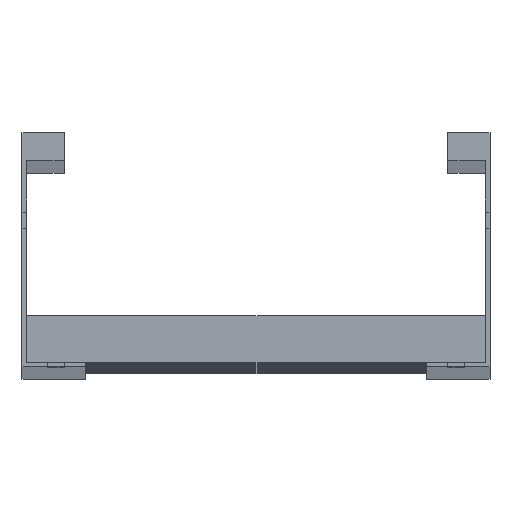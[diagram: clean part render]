
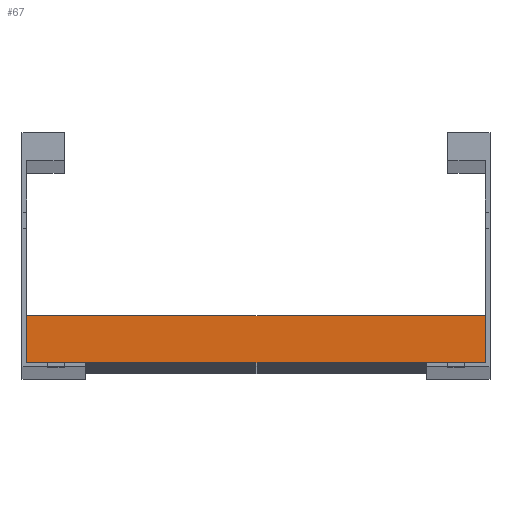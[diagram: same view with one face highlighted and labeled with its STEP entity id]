
A CAD part, top view. The second image highlights one B-rep face of the part: STEP entity #67.
In plain terms, the highlighted planar face has unit normal (0, 0, 1).
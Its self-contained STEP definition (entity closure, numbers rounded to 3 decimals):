
#46 = AXIS2_PLACEMENT_3D ( 'NONE', #1529, #1278, #1148 ) ;
#58 = VERTEX_POINT ( 'NONE', #1257 ) ;
#62 = CARTESIAN_POINT ( 'NONE',  ( -98., 20., 20.25 ) ) ;
#67 = ADVANCED_FACE ( 'NONE', ( #73 ), #615, .F. ) ;
#73 = FACE_OUTER_BOUND ( 'NONE', #1146, .T. ) ;
#79 = LINE ( 'NONE', #1652, #131 ) ;
#131 = VECTOR ( 'NONE', #195, 1000. ) ;
#188 = ORIENTED_EDGE ( 'NONE', *, *, #902, .T. ) ;
#195 = DIRECTION ( 'NONE',  ( -1., 0., 0. ) ) ;
#247 = CARTESIAN_POINT ( 'NONE',  ( 98., 0., 20.25 ) ) ;
#293 = VERTEX_POINT ( 'NONE', #247 ) ;
#437 = CARTESIAN_POINT ( 'NONE',  ( -98., 0., 20.25 ) ) ;
#486 = EDGE_CURVE ( 'NONE', #941, #1323, #1391, .T. ) ;
#498 = DIRECTION ( 'NONE',  ( 0., -1., 0. ) ) ;
#615 = PLANE ( 'NONE',  #46 ) ;
#737 = DIRECTION ( 'NONE',  ( -1., 0., 0. ) ) ;
#753 = CARTESIAN_POINT ( 'NONE',  ( 98., 20., 20.25 ) ) ;
#862 = ORIENTED_EDGE ( 'NONE', *, *, #1691, .F. ) ;
#902 = EDGE_CURVE ( 'NONE', #58, #941, #1124, .T. ) ;
#924 = ORIENTED_EDGE ( 'NONE', *, *, #486, .T. ) ;
#941 = VERTEX_POINT ( 'NONE', #1665 ) ;
#1051 = ORIENTED_EDGE ( 'NONE', *, *, #1201, .F. ) ;
#1124 = LINE ( 'NONE', #753, #1631 ) ;
#1146 = EDGE_LOOP ( 'NONE', ( #924, #862, #1051, #188 ) ) ;
#1148 = DIRECTION ( 'NONE',  ( 0., 1., 0. ) ) ;
#1168 = LINE ( 'NONE', #1199, #1430 ) ;
#1199 = CARTESIAN_POINT ( 'NONE',  ( 98., 20., 20.25 ) ) ;
#1201 = EDGE_CURVE ( 'NONE', #58, #293, #1168, .T. ) ;
#1257 = CARTESIAN_POINT ( 'NONE',  ( 98., 20., 20.25 ) ) ;
#1278 = DIRECTION ( 'NONE',  ( 0., 0., -1. ) ) ;
#1289 = VECTOR ( 'NONE', #1401, 1000. ) ;
#1323 = VERTEX_POINT ( 'NONE', #437 ) ;
#1391 = LINE ( 'NONE', #62, #1289 ) ;
#1401 = DIRECTION ( 'NONE',  ( 0., -1., 0. ) ) ;
#1430 = VECTOR ( 'NONE', #498, 1000. ) ;
#1529 = CARTESIAN_POINT ( 'NONE',  ( 98., 20., 20.25 ) ) ;
#1631 = VECTOR ( 'NONE', #737, 1000. ) ;
#1652 = CARTESIAN_POINT ( 'NONE',  ( 98., 0., 20.25 ) ) ;
#1665 = CARTESIAN_POINT ( 'NONE',  ( -98., 20., 20.25 ) ) ;
#1691 = EDGE_CURVE ( 'NONE', #293, #1323, #79, .T. ) ;
